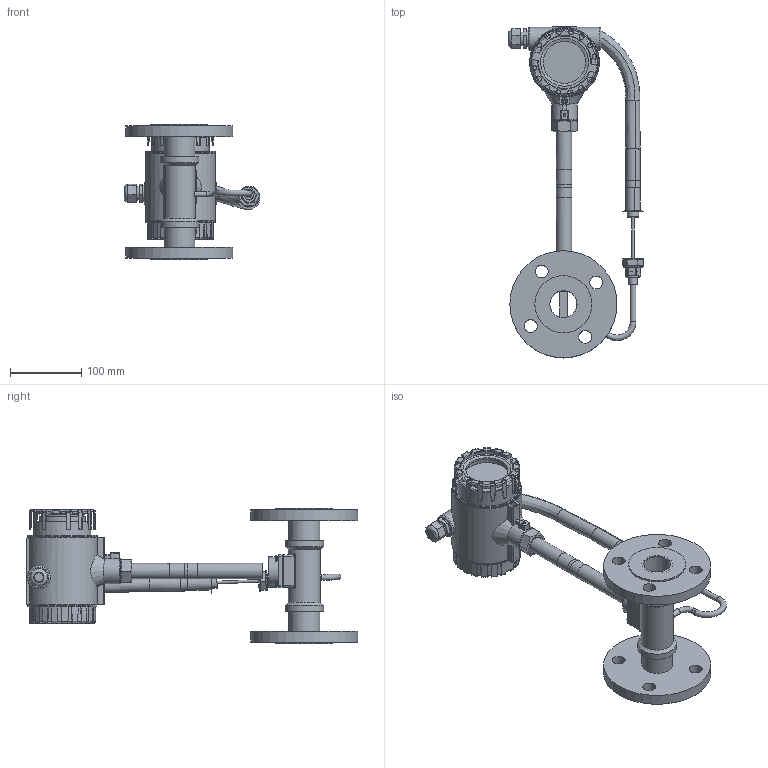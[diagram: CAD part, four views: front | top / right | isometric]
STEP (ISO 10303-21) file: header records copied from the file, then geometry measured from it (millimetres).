
FILE_DESCRIPTION(/* description */ ('STEP AP214'),/* implementation_level */ '2;1');
FILE_NAME(/* name */ 'DN40 vortex.step',/* time_stamp */ '2025-09-25T11:03:01+03:00',/* author */ (''),/* organization */ (''),/* preprocessor_version */ 'ST-DEVELOPER v20.1',/* originating_system */ 'Autodesk Translation Framework v14.10.0.0',/* authorisation */ '');
FILE_SCHEMA (('AUTOMOTIVE_DESIGN { 1 0 10303 214 3 1 1 }'));
Length unit declared in the file: millimetre
Products named in the file (1): DN100法兰连接装配体
Bounding box: 189.8 x 464.75 x 190.01 mm (x, y, z)
Volume: 1250989.9 mm3; surface area: 399635.3 mm2
Topology: 24 solids, 25 shells, 926 faces, 2305 edges, 1461 vertices
Faces by surface type: plane 523, cylinder 245, torus 65, cone 53, bspline 36, sphere 4
Full cylindrical faces by diameter (mm): 2.88 x1, 3.3 x1, 3.65 x2, 3.78 x8, 4.2 x2, 5.4 x8, 6 x4, 8 x4, 8.1 x1, 8.7 x2, 10 x1, 12 x1, 12.4 x1, 13 x1, 14 x1, 16 x2, 16.2 x2, 17.727 x4, 18 x12, 19 x7, 19.2 x2, 20.6 x1, 20.655 x1, 21.6 x2, 22.6 x1, 24.2 x1, 28 x2, 31.9 x2, 34.2 x1, 38 x3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
Entity records: 32262 total; most frequent: CARTESIAN_POINT 9777, DIRECTION 4860, ORIENTED_EDGE 4584, EDGE_CURVE 2292, AXIS2_PLACEMENT_3D 1847, VERTEX_POINT 1461, LINE 1166, VECTOR 1166
